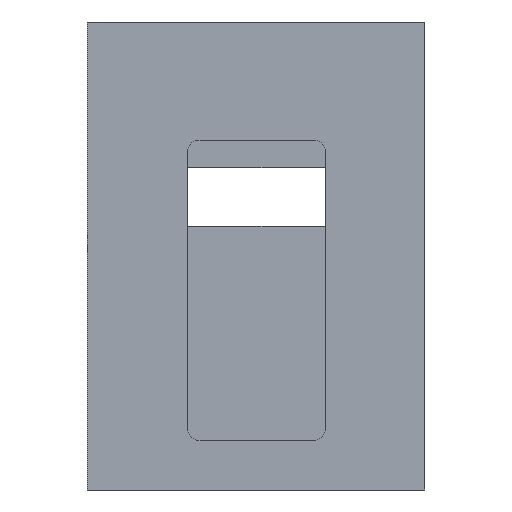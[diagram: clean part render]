
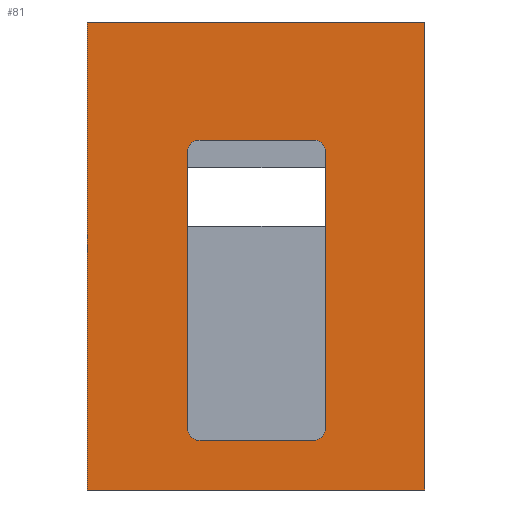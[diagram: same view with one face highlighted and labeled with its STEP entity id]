
A CAD part, front view. The second image highlights one B-rep face of the part: STEP entity #81.
In plain terms, the highlighted planar face has unit normal (0, -1, 0).
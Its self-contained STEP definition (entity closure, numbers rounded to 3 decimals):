
#12 = VECTOR ( 'NONE', #1523, 1000. ) ;
#17 = AXIS2_PLACEMENT_3D ( 'NONE', #986, #1499, #334 ) ;
#37 = EDGE_CURVE ( 'NONE', #1426, #497, #834, .T. ) ;
#76 = PLANE ( 'NONE',  #1311 ) ;
#81 = ADVANCED_FACE ( 'NONE', ( #447, #842 ), #76, .T. ) ;
#82 = VERTEX_POINT ( 'NONE', #1223 ) ;
#85 = LINE ( 'NONE', #227, #1644 ) ;
#120 = ORIENTED_EDGE ( 'NONE', *, *, #171, .F. ) ;
#124 = EDGE_CURVE ( 'NONE', #591, #497, #583, .T. ) ;
#128 = CARTESIAN_POINT ( 'NONE',  ( 28.32, 0., -68. ) ) ;
#171 = EDGE_CURVE ( 'NONE', #591, #934, #763, .T. ) ;
#188 = DIRECTION ( 'NONE',  ( 0., 1., 0. ) ) ;
#193 = DIRECTION ( 'NONE',  ( 0., -1., 0. ) ) ;
#201 = DIRECTION ( 'NONE',  ( 0., 0., -1. ) ) ;
#212 = ORIENTED_EDGE ( 'NONE', *, *, #880, .T. ) ;
#213 = LINE ( 'NONE', #1139, #1178 ) ;
#219 = VERTEX_POINT ( 'NONE', #482 ) ;
#223 = EDGE_CURVE ( 'NONE', #922, #1438, #85, .T. ) ;
#227 = CARTESIAN_POINT ( 'NONE',  ( -28.32, 0., -68. ) ) ;
#243 = CARTESIAN_POINT ( 'NONE',  ( -69.485, 0., -88.422 ) ) ;
#257 = VECTOR ( 'NONE', #1347, 1000. ) ;
#260 = AXIS2_PLACEMENT_3D ( 'NONE', #1624, #972, #201 ) ;
#270 = LINE ( 'NONE', #795, #1074 ) ;
#287 = ORIENTED_EDGE ( 'NONE', *, *, #1530, .F. ) ;
#311 = CIRCLE ( 'NONE', #421, 4.73 ) ;
#334 = DIRECTION ( 'NONE',  ( 0., 0., -1. ) ) ;
#381 = DIRECTION ( 'NONE',  ( -1., 0., 0. ) ) ;
#421 = AXIS2_PLACEMENT_3D ( 'NONE', #563, #188, #837 ) ;
#423 = ORIENTED_EDGE ( 'NONE', *, *, #1457, .F. ) ;
#447 = FACE_BOUND ( 'NONE', #683, .T. ) ;
#451 = CIRCLE ( 'NONE', #260, 4.73 ) ;
#454 = VERTEX_POINT ( 'NONE', #1485 ) ;
#468 = CARTESIAN_POINT ( 'NONE',  ( -28.32, 0., 50.46 ) ) ;
#480 = VERTEX_POINT ( 'NONE', #565 ) ;
#482 = CARTESIAN_POINT ( 'NONE',  ( 69.105, 0., 103.682 ) ) ;
#486 = CARTESIAN_POINT ( 'NONE',  ( 69.105, 0., -88.422 ) ) ;
#497 = VERTEX_POINT ( 'NONE', #866 ) ;
#510 = DIRECTION ( 'NONE',  ( 0., 1., 0. ) ) ;
#518 = DIRECTION ( 'NONE',  ( 0., 0., -1. ) ) ;
#558 = AXIS2_PLACEMENT_3D ( 'NONE', #892, #510, #518 ) ;
#563 = CARTESIAN_POINT ( 'NONE',  ( -23.59, 0., -63.27 ) ) ;
#565 = CARTESIAN_POINT ( 'NONE',  ( 23.59, 0., 55.19 ) ) ;
#583 = CIRCLE ( 'NONE', #558, 4.73 ) ;
#591 = VERTEX_POINT ( 'NONE', #1282 ) ;
#609 = EDGE_CURVE ( 'NONE', #480, #82, #1672, .T. ) ;
#627 = CARTESIAN_POINT ( 'NONE',  ( -28.32, 0., 55.19 ) ) ;
#651 = EDGE_CURVE ( 'NONE', #1172, #454, #1255, .T. ) ;
#675 = ORIENTED_EDGE ( 'NONE', *, *, #1299, .T. ) ;
#683 = EDGE_LOOP ( 'NONE', ( #1018, #1021, #733, #675, #120, #1591, #849, #212 ) ) ;
#696 = VECTOR ( 'NONE', #881, 1000. ) ;
#698 = EDGE_LOOP ( 'NONE', ( #1059, #423, #1213, #287 ) ) ;
#715 = DIRECTION ( 'NONE',  ( 0., 0., -1. ) ) ;
#733 = ORIENTED_EDGE ( 'NONE', *, *, #609, .F. ) ;
#753 = CIRCLE ( 'NONE', #17, 4.73 ) ;
#763 = LINE ( 'NONE', #128, #696 ) ;
#795 = CARTESIAN_POINT ( 'NONE',  ( -69.485, 0., 103.682 ) ) ;
#818 = EDGE_CURVE ( 'NONE', #1410, #219, #270, .T. ) ;
#824 = DIRECTION ( 'NONE',  ( 0., 0., -1. ) ) ;
#834 = LINE ( 'NONE', #1232, #257 ) ;
#837 = DIRECTION ( 'NONE',  ( 0., 0., -1. ) ) ;
#842 = FACE_OUTER_BOUND ( 'NONE', #698, .T. ) ;
#849 = ORIENTED_EDGE ( 'NONE', *, *, #37, .F. ) ;
#866 = CARTESIAN_POINT ( 'NONE',  ( 23.59, 0., -68. ) ) ;
#874 = DIRECTION ( 'NONE',  ( 0., 0., -1. ) ) ;
#880 = EDGE_CURVE ( 'NONE', #1426, #1438, #311, .T. ) ;
#881 = DIRECTION ( 'NONE',  ( 0., 0., 1. ) ) ;
#892 = CARTESIAN_POINT ( 'NONE',  ( 23.59, 0., -63.27 ) ) ;
#922 = VERTEX_POINT ( 'NONE', #468 ) ;
#934 = VERTEX_POINT ( 'NONE', #1607 ) ;
#972 = DIRECTION ( 'NONE',  ( 0., 1., 0. ) ) ;
#986 = CARTESIAN_POINT ( 'NONE',  ( -23.59, 0., 50.46 ) ) ;
#1018 = ORIENTED_EDGE ( 'NONE', *, *, #223, .F. ) ;
#1021 = ORIENTED_EDGE ( 'NONE', *, *, #1513, .T. ) ;
#1059 = ORIENTED_EDGE ( 'NONE', *, *, #818, .F. ) ;
#1073 = DIRECTION ( 'NONE',  ( 1., 0., 0. ) ) ;
#1074 = VECTOR ( 'NONE', #1073, 1000. ) ;
#1131 = LINE ( 'NONE', #486, #1589 ) ;
#1139 = CARTESIAN_POINT ( 'NONE',  ( -69.485, 0., -88.422 ) ) ;
#1147 = DIRECTION ( 'NONE',  ( 0., 0., 1. ) ) ;
#1172 = VERTEX_POINT ( 'NONE', #1439 ) ;
#1178 = VECTOR ( 'NONE', #1147, 1000. ) ;
#1213 = ORIENTED_EDGE ( 'NONE', *, *, #651, .F. ) ;
#1223 = CARTESIAN_POINT ( 'NONE',  ( -23.59, 0., 55.19 ) ) ;
#1232 = CARTESIAN_POINT ( 'NONE',  ( -28.32, 0., -68. ) ) ;
#1255 = LINE ( 'NONE', #243, #1614 ) ;
#1282 = CARTESIAN_POINT ( 'NONE',  ( 28.32, 0., -63.27 ) ) ;
#1299 = EDGE_CURVE ( 'NONE', #480, #934, #451, .T. ) ;
#1311 = AXIS2_PLACEMENT_3D ( 'NONE', #1354, #193, #715 ) ;
#1347 = DIRECTION ( 'NONE',  ( 1., 0., 0. ) ) ;
#1354 = CARTESIAN_POINT ( 'NONE',  ( 0., 0., 0. ) ) ;
#1408 = CARTESIAN_POINT ( 'NONE',  ( -69.485, 0., 103.682 ) ) ;
#1410 = VERTEX_POINT ( 'NONE', #1408 ) ;
#1426 = VERTEX_POINT ( 'NONE', #1641 ) ;
#1438 = VERTEX_POINT ( 'NONE', #1655 ) ;
#1439 = CARTESIAN_POINT ( 'NONE',  ( 69.105, 0., -88.422 ) ) ;
#1457 = EDGE_CURVE ( 'NONE', #454, #1410, #213, .T. ) ;
#1485 = CARTESIAN_POINT ( 'NONE',  ( -69.485, 0., -88.422 ) ) ;
#1499 = DIRECTION ( 'NONE',  ( 0., 1., 0. ) ) ;
#1513 = EDGE_CURVE ( 'NONE', #922, #82, #753, .T. ) ;
#1523 = DIRECTION ( 'NONE',  ( -1., 0., 0. ) ) ;
#1530 = EDGE_CURVE ( 'NONE', #219, #1172, #1131, .T. ) ;
#1589 = VECTOR ( 'NONE', #824, 1000. ) ;
#1591 = ORIENTED_EDGE ( 'NONE', *, *, #124, .T. ) ;
#1607 = CARTESIAN_POINT ( 'NONE',  ( 28.32, 0., 50.46 ) ) ;
#1614 = VECTOR ( 'NONE', #381, 1000. ) ;
#1624 = CARTESIAN_POINT ( 'NONE',  ( 23.59, 0., 50.46 ) ) ;
#1641 = CARTESIAN_POINT ( 'NONE',  ( -23.59, 0., -68. ) ) ;
#1644 = VECTOR ( 'NONE', #874, 1000. ) ;
#1655 = CARTESIAN_POINT ( 'NONE',  ( -28.32, 0., -63.27 ) ) ;
#1672 = LINE ( 'NONE', #627, #12 ) ;
